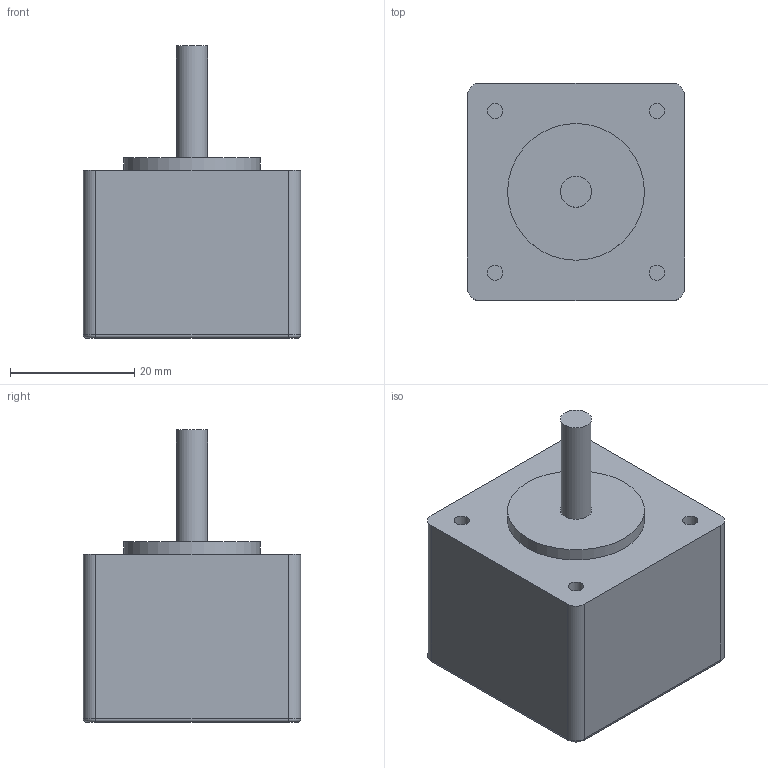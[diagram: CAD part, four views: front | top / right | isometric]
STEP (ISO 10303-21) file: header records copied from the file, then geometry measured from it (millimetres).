
FILE_DESCRIPTION(/* description */ ('Alibre Inc.'),/* implementation_level */ '2;1');
FILE_NAME(/* name */ 'export0',/* time_stamp */ '2013-07-26T09:05:16-06:00',/* author */ (''),/* organization */ (''),/* preprocessor_version */ 'ST-DEVELOPER v14',/* originating_system */ 'Alibre',/* authorisation */ '');
FILE_SCHEMA (('ALIBRE_SCHEMA','CONFIG_CONTROL_DESIGN'));
Length unit declared in the file: centimetre
Products named in the file (1): ID_1
Bounding box: 34.95 x 34.95 x 47 mm (x, y, z)
Volume: 33937.3 mm3; surface area: 6602.3 mm2
Topology: 1 solids, 1 shells, 30 faces, 58 edges, 36 vertices
Faces by surface type: cylinder 14, plane 12, torus 4
Full cylindrical faces by diameter (mm): 2.459 x4, 5 x1, 22 x1
Entity records: 1932 total; most frequent: CARTESIAN_POINT 268, DIRECTION 171, CONSTRAINTPAIRUV 129, REFERENCEDEPENDENTUV 106, ORIENTED_EDGE 104, REFERENCEPOINTUV 79, AXIS2_PLACEMENT_3D 70, PERSISTANTTOPOLOGYATTRIBUTE 63
